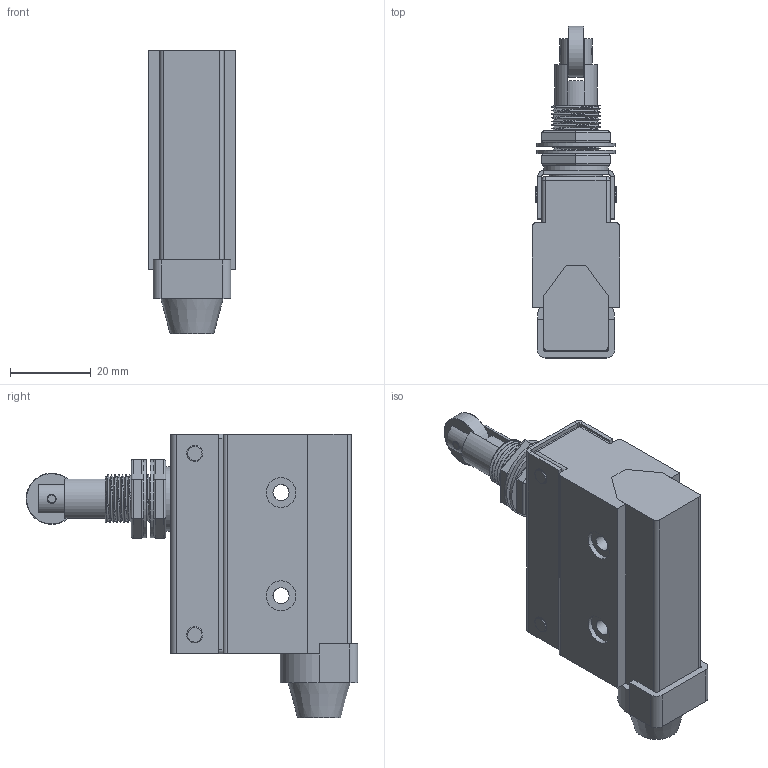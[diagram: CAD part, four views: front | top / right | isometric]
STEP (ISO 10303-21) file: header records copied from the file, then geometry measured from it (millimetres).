
FILE_DESCRIPTION (( 'STEP AP214' ), '1' );
FILE_NAME ('3D 斁麧錪 MTB4-MS7110.STEP', '2020-07-27T13:38:42', ( '' ), ( '' ), 'SwSTEP 2.0', 'SolidWorks 2015', '' );
FILE_SCHEMA (( 'AUTOMOTIVE_DESIGN' ));
Length unit declared in the file: millimetre
Products named in the file (10): 3D 斁麧錪 MTB4-MS7110; B18.21.2M-Internal Tooth Lock Washers_AM12_B18.21.2M-Internal Tooth Lock Washers_AM12; Øàéáà_ïîäêëàäî÷íàÿ_MS7110_00; Ãàéêà MTB4; 扻錼鼨膰_懤瀖00; Âòóëêà_11,2_ñ çàêëåïêîé_00; Òîëêàòåëü MS7110_00; 鎗鵻罻_8,2_00; Ñêîáà_÷åðíàÿ_00; 膰薧槻鴀 MTB4-MS7110
Assembly tree (12 placements, depth 2):
  3D 斁麧錪 MTB4-MS7110
    膰薧槻鴀 MTB4-MS7110
    Øàéáà_ïîäêëàäî÷íàÿ_MS7110_00
    Ñêîáà_÷åðíàÿ_00
    Òîëêàòåëü MS7110_00
    Âòóëêà_11,2_ñ çàêëåïêîé_00  x2
    Ãàéêà MTB4  x2
    B18.21.2M-Internal Tooth Lock Washers_AM12_B18.21.2M-Internal Tooth Lock Washers_AM12  x2
    扻錼鼨膰_懤瀖00
    鎗鵻罻_8,2_00
Bounding box: 21.71 x 82.28 x 70.3 mm (x, y, z)
Volume: 52750.9 mm3; surface area: 24837.1 mm2
Topology: 14 solids, 14 shells, 594 faces, 1532 edges, 1001 vertices
Faces by surface type: plane 370, cylinder 138, bspline 67, torus 12, sphere 4, cone 3
Full cylindrical faces by diameter (mm): 2.1 x1, 2.2 x2, 3 x3, 3.2 x6, 4 x10, 7.4 x4, 8 x2, 12.7 x1, 13 x2, 16 x1, 19.5 x2
Entity records: 25118 total; most frequent: CARTESIAN_POINT 8774, ORIENTED_EDGE 2530, DIRECTION 2203, EDGE_CURVE 1265, VECTOR 921, LINE 921, VERTEX_POINT 853, AXIS2_PLACEMENT_3D 641
